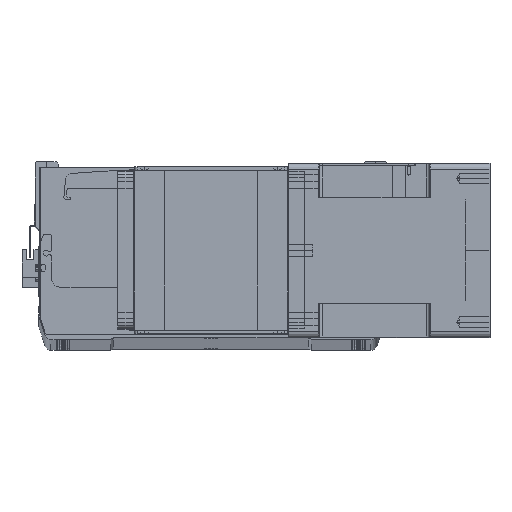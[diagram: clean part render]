
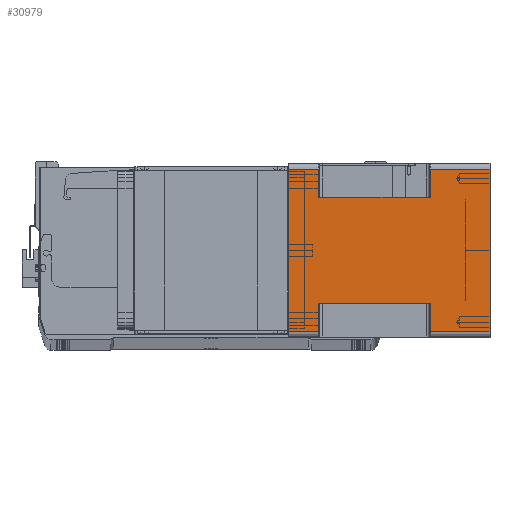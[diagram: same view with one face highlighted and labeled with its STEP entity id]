
A CAD part, top view. The second image highlights one B-rep face of the part: STEP entity #30979.
In plain terms, the highlighted planar face has unit normal (0, 0, 1) as drawn and (1, 0, 0) by its records, which use the part's own axes.
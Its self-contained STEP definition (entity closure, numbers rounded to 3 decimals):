
#64 = CARTESIAN_POINT ( 'NONE',  ( 71., 66., -164. ) ) ;
#569 = LINE ( 'NONE', #26720, #28135 ) ;
#668 = CARTESIAN_POINT ( 'NONE',  ( 71., -66., -164. ) ) ;
#787 = EDGE_CURVE ( 'NONE', #17678, #11175, #28060, .T. ) ;
#1069 = VECTOR ( 'NONE', #21093, 1000. ) ;
#1978 = VECTOR ( 'NONE', #5872, 1000. ) ;
#2137 = LINE ( 'NONE', #35122, #22405 ) ;
#2183 = VERTEX_POINT ( 'NONE', #17128 ) ;
#2300 = EDGE_LOOP ( 'NONE', ( #16038, #12341, #12459, #12510, #9117, #34120, #21936, #30399, #28918, #14127, #21854, #11731 ) ) ;
#2676 = VERTEX_POINT ( 'NONE', #27186 ) ;
#3136 = VERTEX_POINT ( 'NONE', #34937 ) ;
#3653 = AXIS2_PLACEMENT_3D ( 'NONE', #17163, #20269, #5064 ) ;
#4053 = EDGE_CURVE ( 'NONE', #24283, #3136, #4170, .T. ) ;
#4170 = LINE ( 'NONE', #37010, #12378 ) ;
#5064 = DIRECTION ( 'NONE',  ( 0., 1., 0. ) ) ;
#5637 = CARTESIAN_POINT ( 'NONE',  ( 71., 66., -164. ) ) ;
#5872 = DIRECTION ( 'NONE',  ( 0., 1., 0. ) ) ;
#6808 = VECTOR ( 'NONE', #37096, 1000. ) ;
#6919 = EDGE_CURVE ( 'NONE', #37569, #3136, #8893, .T. ) ;
#7078 = EDGE_CURVE ( 'NONE', #32134, #2183, #569, .T. ) ;
#7775 = VECTOR ( 'NONE', #12234, 1000. ) ;
#8606 = CARTESIAN_POINT ( 'NONE',  ( 71., -43., -164. ) ) ;
#8733 = LINE ( 'NONE', #12251, #6808 ) ;
#8893 = LINE ( 'NONE', #37946, #21368 ) ;
#9117 = ORIENTED_EDGE ( 'NONE', *, *, #18239, .T. ) ;
#9280 = VERTEX_POINT ( 'NONE', #34388 ) ;
#9282 = CARTESIAN_POINT ( 'NONE',  ( 71., -43., -115.5 ) ) ;
#9374 = LINE ( 'NONE', #5637, #1069 ) ;
#9908 = DIRECTION ( 'NONE',  ( 0., 1., 0. ) ) ;
#10948 = DIRECTION ( 'NONE',  ( 0., -1., 0. ) ) ;
#11060 = CARTESIAN_POINT ( 'NONE',  ( 71., -66., 0. ) ) ;
#11107 = DIRECTION ( 'NONE',  ( 0., 0., 1. ) ) ;
#11175 = VERTEX_POINT ( 'NONE', #36659 ) ;
#11731 = ORIENTED_EDGE ( 'NONE', *, *, #40064, .T. ) ;
#12234 = DIRECTION ( 'NONE',  ( 0., 0., 1. ) ) ;
#12251 = CARTESIAN_POINT ( 'NONE',  ( 71., -66., -164. ) ) ;
#12341 = ORIENTED_EDGE ( 'NONE', *, *, #6919, .T. ) ;
#12378 = VECTOR ( 'NONE', #18456, 1000. ) ;
#12459 = ORIENTED_EDGE ( 'NONE', *, *, #4053, .F. ) ;
#12510 = ORIENTED_EDGE ( 'NONE', *, *, #28785, .T. ) ;
#12968 = VERTEX_POINT ( 'NONE', #39981 ) ;
#14061 = FACE_OUTER_BOUND ( 'NONE', #2300, .T. ) ;
#14127 = ORIENTED_EDGE ( 'NONE', *, *, #787, .F. ) ;
#15289 = VECTOR ( 'NONE', #11107, 1000. ) ;
#15439 = VECTOR ( 'NONE', #21682, 1000. ) ;
#16038 = ORIENTED_EDGE ( 'NONE', *, *, #28596, .F. ) ;
#16166 = VECTOR ( 'NONE', #9908, 1000. ) ;
#17128 = CARTESIAN_POINT ( 'NONE',  ( 71., 43., -115.5 ) ) ;
#17163 = CARTESIAN_POINT ( 'NONE',  ( 71., -66., -164. ) ) ;
#17678 = VERTEX_POINT ( 'NONE', #11060 ) ;
#18150 = LINE ( 'NONE', #8606, #15289 ) ;
#18239 = EDGE_CURVE ( 'NONE', #12968, #32134, #24160, .T. ) ;
#18456 = DIRECTION ( 'NONE',  ( 0., 0., 1. ) ) ;
#19401 = DIRECTION ( 'NONE',  ( 0., -1., 0. ) ) ;
#20269 = DIRECTION ( 'NONE',  ( 1., 0., 0. ) ) ;
#21011 = CARTESIAN_POINT ( 'NONE',  ( 71., 43., -164. ) ) ;
#21093 = DIRECTION ( 'NONE',  ( 0., 0., 1. ) ) ;
#21368 = VECTOR ( 'NONE', #19401, 1000. ) ;
#21682 = DIRECTION ( 'NONE',  ( 0., 0., -1. ) ) ;
#21854 = ORIENTED_EDGE ( 'NONE', *, *, #33417, .F. ) ;
#21936 = ORIENTED_EDGE ( 'NONE', *, *, #27410, .F. ) ;
#22045 = VECTOR ( 'NONE', #32408, 1000. ) ;
#22405 = VECTOR ( 'NONE', #38523, 1000. ) ;
#24160 = LINE ( 'NONE', #64, #7775 ) ;
#24283 = VERTEX_POINT ( 'NONE', #28466 ) ;
#26409 = EDGE_CURVE ( 'NONE', #38656, #11175, #9374, .T. ) ;
#26720 = CARTESIAN_POINT ( 'NONE',  ( 71., 43., -115.5 ) ) ;
#27085 = CARTESIAN_POINT ( 'NONE',  ( 71., -43., -24.5 ) ) ;
#27186 = CARTESIAN_POINT ( 'NONE',  ( 71., 43., -24.5 ) ) ;
#27410 = EDGE_CURVE ( 'NONE', #2676, #2183, #33797, .T. ) ;
#27681 = CARTESIAN_POINT ( 'NONE',  ( 71., -66., 0. ) ) ;
#28060 = LINE ( 'NONE', #27681, #1978 ) ;
#28135 = VECTOR ( 'NONE', #10948, 1000. ) ;
#28466 = CARTESIAN_POINT ( 'NONE',  ( 71., -66., -164. ) ) ;
#28596 = EDGE_CURVE ( 'NONE', #37569, #36955, #18150, .T. ) ;
#28785 = EDGE_CURVE ( 'NONE', #24283, #12968, #37488, .T. ) ;
#28918 = ORIENTED_EDGE ( 'NONE', *, *, #26409, .T. ) ;
#29751 = PLANE ( 'NONE',  #3653 ) ;
#30399 = ORIENTED_EDGE ( 'NONE', *, *, #37245, .T. ) ;
#30979 = ADVANCED_FACE ( 'NONE', ( #14061 ), #29751, .T. ) ;
#31915 = CARTESIAN_POINT ( 'NONE',  ( 71., 66., -115.5 ) ) ;
#32134 = VERTEX_POINT ( 'NONE', #31915 ) ;
#32408 = DIRECTION ( 'NONE',  ( 0., 1., 0. ) ) ;
#33417 = EDGE_CURVE ( 'NONE', #9280, #17678, #8733, .T. ) ;
#33797 = LINE ( 'NONE', #21011, #15439 ) ;
#34120 = ORIENTED_EDGE ( 'NONE', *, *, #7078, .T. ) ;
#34388 = CARTESIAN_POINT ( 'NONE',  ( 71., -66., -24.5 ) ) ;
#34937 = CARTESIAN_POINT ( 'NONE',  ( 71., -66., -115.5 ) ) ;
#35122 = CARTESIAN_POINT ( 'NONE',  ( 71., -66., -24.5 ) ) ;
#35247 = CARTESIAN_POINT ( 'NONE',  ( 71., -43., -24.5 ) ) ;
#36659 = CARTESIAN_POINT ( 'NONE',  ( 71., 66., 0. ) ) ;
#36955 = VERTEX_POINT ( 'NONE', #27085 ) ;
#37010 = CARTESIAN_POINT ( 'NONE',  ( 71., -66., -164. ) ) ;
#37096 = DIRECTION ( 'NONE',  ( 0., 0., 1. ) ) ;
#37245 = EDGE_CURVE ( 'NONE', #2676, #38656, #2137, .T. ) ;
#37407 = CARTESIAN_POINT ( 'NONE',  ( 71., 66., -24.5 ) ) ;
#37488 = LINE ( 'NONE', #668, #16166 ) ;
#37569 = VERTEX_POINT ( 'NONE', #9282 ) ;
#37946 = CARTESIAN_POINT ( 'NONE',  ( 71., -66., -115.5 ) ) ;
#38456 = LINE ( 'NONE', #35247, #22045 ) ;
#38523 = DIRECTION ( 'NONE',  ( 0., 1., 0. ) ) ;
#38656 = VERTEX_POINT ( 'NONE', #37407 ) ;
#39981 = CARTESIAN_POINT ( 'NONE',  ( 71., 66., -164. ) ) ;
#40064 = EDGE_CURVE ( 'NONE', #9280, #36955, #38456, .T. ) ;
